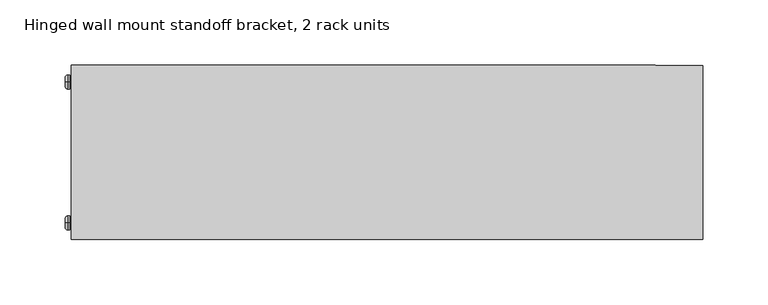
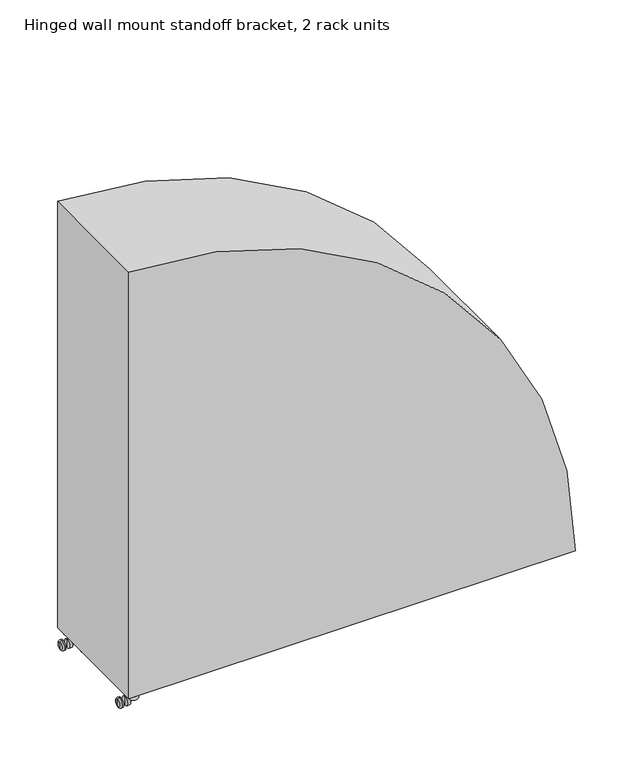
"""IFC4 building model written with IfcOpenShell, lengths in millimetres: electric appliance geometry, Data_Device-Network-Leviton-Hinged-Wall_Mount-Bracket : Hinged wall mount standoff bracket, 2 rack units."""

from ifc_helpers import new_model, si_unit, point, frame, frame_2d, origin, place, context, project, spatial, polyline, circle_curve, ellipse_curve, trimmed, segment, composite_curve, outline, extrude, source, transform, mapped, element, save
from ifc_brep_helpers import plane_surface, cylinder_surface, revolved_surface, advanced_brep


def hinged_wall_mount_standoff_bracket_2_rack_units_79093c4a(model_context):
    return source(origin(), model_context, "Body", "SolidModel", [
        extrude(outline(composite_curve([segment(trimmed(circle_curve(frame_2d((-255.7526, 65.7792825)), 4.826), [point((-250.9266, 65.7792825))], [point((-260.5786, 65.7792825))], False, "CARTESIAN"), True, "CONTINUOUS"), segment(trimmed(circle_curve(frame_2d((-255.7526, 65.7792825)), 4.826), [point((-260.5786, 65.7792825))], [point((-250.9266, 65.7792825))], False, "CARTESIAN"), True, "CONTINUOUS")], self_intersect=False), holes=[composite_curve([segment(trimmed(circle_curve(frame_2d((-255.7526, 65.7792825)), 2.7432), [point((-253.0094, 65.7792825))], [point((-258.4958, 65.7792825))], True, "CARTESIAN"), True, "CONTINUOUS"), segment(trimmed(circle_curve(frame_2d((-255.7526, 65.7792825)), 2.7432), [point((-258.4958, 65.7792825))], [point((-253.0094, 65.7792825))], True, "CARTESIAN"), True, "CONTINUOUS")], self_intersect=False)]), frame((0.0, 0.0, 147.1549), z_axis=(0.0, 0.0, 1.0), x_axis=(1.0, 0.0, 0.0)), (0.0, 0.0, 1.0), 3.9878),
        extrude(outline(composite_curve([segment(trimmed(circle_curve(frame_2d((-255.7526, 49.9042825)), 4.826), [point((-250.9266, 49.9042825))], [point((-260.5786, 49.9042825))], False, "CARTESIAN"), True, "CONTINUOUS"), segment(trimmed(circle_curve(frame_2d((-255.7526, 49.9042825)), 4.826), [point((-260.5786, 49.9042825))], [point((-250.9266, 49.9042825))], False, "CARTESIAN"), True, "CONTINUOUS")], self_intersect=False), holes=[composite_curve([segment(trimmed(circle_curve(frame_2d((-255.7526, 49.9042825)), 2.7432), [point((-253.0094, 49.9042825))], [point((-258.4958, 49.9042825))], True, "CARTESIAN"), True, "CONTINUOUS"), segment(trimmed(circle_curve(frame_2d((-255.7526, 49.9042825)), 2.7432), [point((-258.4958, 49.9042825))], [point((-253.0094, 49.9042825))], True, "CARTESIAN"), True, "CONTINUOUS")], self_intersect=False)]), frame((0.0, 0.0, 147.1549), z_axis=(0.0, 0.0, 1.0), x_axis=(1.0, 0.0, 0.0)), (0.0, 0.0, 1.0), 3.9878),
        extrude(outline(composite_curve([segment(trimmed(circle_curve(frame_2d((-255.7526, 34.0292825)), 4.826), [point((-250.9266, 34.0292825))], [point((-260.5786, 34.0292825))], False, "CARTESIAN"), True, "CONTINUOUS"), segment(trimmed(circle_curve(frame_2d((-255.7526, 34.0292825)), 4.826), [point((-260.5786, 34.0292825))], [point((-250.9266, 34.0292825))], False, "CARTESIAN"), True, "CONTINUOUS")], self_intersect=False), holes=[composite_curve([segment(trimmed(circle_curve(frame_2d((-255.7526, 34.0292825)), 2.7432), [point((-253.0094, 34.0292825))], [point((-258.4958, 34.0292825))], True, "CARTESIAN"), True, "CONTINUOUS"), segment(trimmed(circle_curve(frame_2d((-255.7526, 34.0292825)), 2.7432), [point((-258.4958, 34.0292825))], [point((-253.0094, 34.0292825))], True, "CARTESIAN"), True, "CONTINUOUS")], self_intersect=False)]), frame((0.0, 0.0, 147.1549), z_axis=(0.0, 0.0, 1.0), x_axis=(1.0, 0.0, 0.0)), (0.0, 0.0, 1.0), 3.9878),
        extrude(outline(composite_curve([segment(trimmed(circle_curve(frame_2d((-255.7526, 21.3292825)), 4.826), [point((-250.9266, 21.3292825))], [point((-260.5786, 21.3292825))], False, "CARTESIAN"), True, "CONTINUOUS"), segment(trimmed(circle_curve(frame_2d((-255.7526, 21.3292825)), 4.826), [point((-260.5786, 21.3292825))], [point((-250.9266, 21.3292825))], False, "CARTESIAN"), True, "CONTINUOUS")], self_intersect=False), holes=[composite_curve([segment(trimmed(circle_curve(frame_2d((-255.7526, 21.3292825)), 2.7432), [point((-253.0094, 21.3292825))], [point((-258.4958, 21.3292825))], True, "CARTESIAN"), True, "CONTINUOUS"), segment(trimmed(circle_curve(frame_2d((-255.7526, 21.3292825)), 2.7432), [point((-258.4958, 21.3292825))], [point((-253.0094, 21.3292825))], True, "CARTESIAN"), True, "CONTINUOUS")], self_intersect=False)]), frame((0.0, 0.0, 147.1549), z_axis=(0.0, 0.0, 1.0), x_axis=(1.0, 0.0, 0.0)), (0.0, 0.0, 1.0), 3.9878),
        extrude(outline(composite_curve([segment(trimmed(circle_curve(frame_2d((-255.7526, 5.4542825)), 4.826), [point((-250.9266, 5.4542825))], [point((-260.5786, 5.4542825))], False, "CARTESIAN"), True, "CONTINUOUS"), segment(trimmed(circle_curve(frame_2d((-255.7526, 5.4542825)), 4.826), [point((-260.5786, 5.4542825))], [point((-250.9266, 5.4542825))], False, "CARTESIAN"), True, "CONTINUOUS")], self_intersect=False), holes=[composite_curve([segment(trimmed(circle_curve(frame_2d((-255.7526, 5.4542825)), 2.7432), [point((-253.0094, 5.4542825))], [point((-258.4958, 5.4542825))], True, "CARTESIAN"), True, "CONTINUOUS"), segment(trimmed(circle_curve(frame_2d((-255.7526, 5.4542825)), 2.7432), [point((-258.4958, 5.4542825))], [point((-253.0094, 5.4542825))], True, "CARTESIAN"), True, "CONTINUOUS")], self_intersect=False)]), frame((0.0, 0.0, 147.1549), z_axis=(0.0, 0.0, 1.0), x_axis=(1.0, 0.0, 0.0)), (0.0, 0.0, 1.0), 3.9878),
        extrude(outline(composite_curve([segment(trimmed(circle_curve(frame_2d((-255.7526, -10.4207175)), 4.826), [point((-250.9266, -10.4207175))], [point((-260.5786, -10.4207175))], False, "CARTESIAN"), True, "CONTINUOUS"), segment(trimmed(circle_curve(frame_2d((-255.7526, -10.4207175)), 4.826), [point((-260.5786, -10.4207175))], [point((-250.9266, -10.4207175))], False, "CARTESIAN"), True, "CONTINUOUS")], self_intersect=False), holes=[composite_curve([segment(trimmed(circle_curve(frame_2d((-255.7526, -10.4207175)), 2.7432), [point((-253.0094, -10.4207175))], [point((-258.4958, -10.4207175))], True, "CARTESIAN"), True, "CONTINUOUS"), segment(trimmed(circle_curve(frame_2d((-255.7526, -10.4207175)), 2.7432), [point((-258.4958, -10.4207175))], [point((-253.0094, -10.4207175))], True, "CARTESIAN"), True, "CONTINUOUS")], self_intersect=False)]), frame((0.0, 0.0, 147.1549), z_axis=(0.0, 0.0, 1.0), x_axis=(1.0, 0.0, 0.0)), (0.0, 0.0, 1.0), 3.9878),
        extrude(outline(composite_curve([segment(trimmed(circle_curve(frame_2d((-255.7526, -23.1207175)), 4.826), [point((-250.9266, -23.1207175))], [point((-260.5786, -23.1207175))], False, "CARTESIAN"), True, "CONTINUOUS"), segment(trimmed(circle_curve(frame_2d((-255.7526, -23.1207175)), 4.826), [point((-260.5786, -23.1207175))], [point((-250.9266, -23.1207175))], False, "CARTESIAN"), True, "CONTINUOUS")], self_intersect=False), holes=[composite_curve([segment(trimmed(circle_curve(frame_2d((-255.7526, -23.1207175)), 2.7432), [point((-253.0094, -23.1207175))], [point((-258.4958, -23.1207175))], True, "CARTESIAN"), True, "CONTINUOUS"), segment(trimmed(circle_curve(frame_2d((-255.7526, -23.1207175)), 2.7432), [point((-258.4958, -23.1207175))], [point((-253.0094, -23.1207175))], True, "CARTESIAN"), True, "CONTINUOUS")], self_intersect=False)]), frame((0.0, 0.0, 147.1549), z_axis=(0.0, 0.0, 1.0), x_axis=(1.0, 0.0, 0.0)), (0.0, 0.0, 1.0), 3.9878),
        extrude(outline(composite_curve([segment(trimmed(circle_curve(frame_2d((-255.7526, -38.9957175)), 4.826), [point((-250.9266, -38.9957175))], [point((-260.5786, -38.9957175))], False, "CARTESIAN"), True, "CONTINUOUS"), segment(trimmed(circle_curve(frame_2d((-255.7526, -38.9957175)), 4.826), [point((-260.5786, -38.9957175))], [point((-250.9266, -38.9957175))], False, "CARTESIAN"), True, "CONTINUOUS")], self_intersect=False), holes=[composite_curve([segment(trimmed(circle_curve(frame_2d((-255.7526, -38.9957175)), 2.7432), [point((-253.0094, -38.9957175))], [point((-258.4958, -38.9957175))], True, "CARTESIAN"), True, "CONTINUOUS"), segment(trimmed(circle_curve(frame_2d((-255.7526, -38.9957175)), 2.7432), [point((-258.4958, -38.9957175))], [point((-253.0094, -38.9957175))], True, "CARTESIAN"), True, "CONTINUOUS")], self_intersect=False)]), frame((0.0, 0.0, 147.1549), z_axis=(0.0, 0.0, 1.0), x_axis=(1.0, 0.0, 0.0)), (0.0, 0.0, 1.0), 3.9878),
        extrude(outline(composite_curve([segment(trimmed(circle_curve(frame_2d((-255.7526, -54.8707175)), 4.826), [point((-250.9266, -54.8707175))], [point((-260.5786, -54.8707175))], False, "CARTESIAN"), True, "CONTINUOUS"), segment(trimmed(circle_curve(frame_2d((-255.7526, -54.8707175)), 4.826), [point((-260.5786, -54.8707175))], [point((-250.9266, -54.8707175))], False, "CARTESIAN"), True, "CONTINUOUS")], self_intersect=False), holes=[composite_curve([segment(trimmed(circle_curve(frame_2d((-255.7526, -54.8707175)), 2.7432), [point((-253.0094, -54.8707175))], [point((-258.4958, -54.8707175))], True, "CARTESIAN"), True, "CONTINUOUS"), segment(trimmed(circle_curve(frame_2d((-255.7526, -54.8707175)), 2.7432), [point((-258.4958, -54.8707175))], [point((-253.0094, -54.8707175))], True, "CARTESIAN"), True, "CONTINUOUS")], self_intersect=False)]), frame((0.0, 0.0, 147.1549), z_axis=(0.0, 0.0, 1.0), x_axis=(1.0, 0.0, 0.0)), (0.0, 0.0, 1.0), 3.9878),
        advanced_brep(
        [(-261.1501, 59.4292825, 141.3002), (-261.1501, 59.4292825, 136.4742), (-261.1501, 59.4292825, 146.1262), (-257.8481, 59.4292825, 136.4742), (-257.8481, 59.4292825, 146.1262), (-257.8481, 59.4292825, 138.557), (-257.8481, 59.4292825, 144.0434), (-256.0701, 59.4292825, 138.557), (-256.0701, 59.4292825, 144.0434), (-256.0701, 59.4292825, 141.3002)],
        [
            (0, 1),
            (1, 2, circle_curve(frame((-261.1501, 59.4292825, 141.3002), z_axis=(-1.0, 0.0, 0.0), x_axis=(0.0, 0.0, -1.0)), 4.826)),
            (2, 0),
            (2, 1, circle_curve(frame((-261.1501, 59.4292825, 141.3002), z_axis=(-1.0, 0.0, 0.0), x_axis=(0.0, 0.0, -1.0)), 4.826)),
            (1, 3),
            (3, 4, circle_curve(frame((-257.8481, 59.4292825, 141.3002), z_axis=(-1.0, 0.0, 0.0), x_axis=(0.0, 0.0, -1.0)), 4.826)),
            (4, 2),
            (4, 3, circle_curve(frame((-257.8481, 59.4292825, 141.3002), z_axis=(-1.0, 0.0, 0.0), x_axis=(0.0, 0.0, -1.0)), 4.826)),
            (3, 5),
            (5, 6, circle_curve(frame((-257.8481, 59.4292825, 141.3002), z_axis=(-1.0, 0.0, 0.0), x_axis=(0.0, 0.0, -1.0)), 2.7432)),
            (6, 4),
            (6, 5, circle_curve(frame((-257.8481, 59.4292825, 141.3002), z_axis=(-1.0, 0.0, 0.0), x_axis=(0.0, 0.0, -1.0)), 2.7432)),
            (5, 7),
            (7, 8, circle_curve(frame((-256.0701, 59.4292825, 141.3002), z_axis=(-1.0, 0.0, 0.0), x_axis=(0.0, 0.0, -1.0)), 2.7432)),
            (8, 6),
            (8, 7, circle_curve(frame((-256.0701, 59.4292825, 141.3002), z_axis=(-1.0, 0.0, 0.0), x_axis=(0.0, 0.0, -1.0)), 2.7432)),
            (7, 9),
            (9, 8),
        ],
        [
            plane_surface(frame((-261.1501, 59.4292825, 141.3002), z_axis=(-1.0, 0.0, 0.0), x_axis=(0.0, 0.0, -1.0))),
            cylinder_surface(frame((15.1899171, 59.4292825, 141.3002), z_axis=(-1.0, 0.0, 0.0), x_axis=(0.0, 0.0, -1.0)), 4.826),
            plane_surface(frame((-257.8481, 59.4292825, 141.3002), z_axis=(1.0, 0.0, 0.0), x_axis=(0.0, 0.0, -1.0))),
            cylinder_surface(frame((15.1899171, 59.4292825, 141.3002), z_axis=(-1.0, 0.0, 0.0), x_axis=(0.0, 0.0, -1.0)), 2.7432),
            plane_surface(frame((-256.0701, 59.4292825, 141.3002), z_axis=(1.0, 0.0, 0.0), x_axis=(0.0, 0.0, -1.0))),
        ],
        [
            (0, [[1, 2, 3]]),
            (0, [[-3, 4, -1]]),
            (1, [[-2, 5, 6, 7]]),
            (1, [[-4, -7, 8, -5]]),
            (2, [[-6, 9, 10, 11]]),
            (2, [[-8, -11, 12, -9]]),
            (3, [[-10, 13, 14, 15]]),
            (3, [[-12, -15, 16, -13]]),
            (4, [[-14, 17, 18]]),
            (4, [[-16, -18, -17]]),
        ],
    ),
        advanced_brep(
        [(-265.5951, 59.4292825, 146.6342), (-265.5951, 59.4292825, 135.9662), (-265.5951, 59.4292825, 141.3002), (-268.7701, 59.4292825, 141.3002), (-268.7701, 59.4292825, 137.668), (-268.7701, 59.4292825, 144.9324), (-267.0683, 59.4292825, 135.9662), (-267.0683, 59.4292825, 146.6342)],
        [
            (0, 1, circle_curve(frame((-265.5951, 59.4292825, 141.3002), z_axis=(1.0, 0.0, 0.0), x_axis=(0.0, 0.0, -1.0)), 5.334)),
            (1, 2),
            (2, 0),
            (1, 0, circle_curve(frame((-265.5951, 59.4292825, 141.3002), z_axis=(1.0, 0.0, 0.0), x_axis=(0.0, 0.0, -1.0)), 5.334)),
            (3, 4),
            (4, 5, circle_curve(frame((-268.7701, 59.4292825, 141.3002), z_axis=(-1.0, 0.0, 0.0), x_axis=(0.0, 0.0, -1.0)), 3.6322)),
            (5, 3),
            (5, 4, circle_curve(frame((-268.7701, 59.4292825, 141.3002), z_axis=(-1.0, 0.0, 0.0), x_axis=(0.0, 0.0, -1.0)), 3.6322)),
            (4, 6, circle_curve(frame((-267.0683, 59.4292825, 137.668), z_axis=(0.0, -1.0, 0.0), x_axis=(0.0, 0.0, -1.0)), 1.7018)),
            (6, 7, circle_curve(frame((-267.0683, 59.4292825, 141.3002), z_axis=(-1.0, 0.0, 0.0), x_axis=(0.0, 0.0, -1.0)), 5.334)),
            (7, 5, circle_curve(frame((-267.0683, 59.4292825, 144.9324), z_axis=(0.0, -1.0, 0.0), x_axis=(0.0, 0.0, 1.0)), 1.7018)),
            (7, 6, circle_curve(frame((-267.0683, 59.4292825, 141.3002), z_axis=(-1.0, 0.0, 0.0), x_axis=(0.0, 0.0, -1.0)), 5.334)),
            (6, 1),
            (0, 7),
        ],
        [
            plane_surface(frame((-265.5951, 59.4292825, 141.3002), z_axis=(1.0, 0.0, 0.0), x_axis=(0.0, 0.0, -1.0))),
            plane_surface(frame((-268.7701, 59.4292825, 141.3002), z_axis=(-1.0, 0.0, 0.0), x_axis=(0.0, 0.0, -1.0))),
            revolved_surface(trimmed(ellipse_curve(frame((-267.0683, 59.4292825, 137.668), z_axis=(0.0, 1.0, 0.0), x_axis=(0.0, 0.0, -1.0)), 1.7018, 1.7018), [point((-267.0683, 59.4292825, 135.9662))], [point((-268.7701, 59.4292825, 137.668))], True, "CARTESIAN"), (15.1899171, 59.4292825, 141.3002), (-1.0, 0.0, 0.0)),
            cylinder_surface(frame((15.1899171, 59.4292825, 141.3002), z_axis=(-1.0, 0.0, 0.0), x_axis=(0.0, 0.0, -1.0)), 5.334),
        ],
        [
            (0, [[1, 2, 3]]),
            (0, [[4, -3, -2]]),
            (1, [[5, 6, 7]]),
            (1, [[-7, 8, -5]]),
            (2, [[-6, 9, 10, 11]]),
            (2, [[-8, -11, 12, -9]]),
            (3, [[-10, 13, -1, 14]]),
            (3, [[-12, -14, -4, -13]]),
        ],
    ),
        advanced_brep(
        [(-261.1501, -48.5207175, 141.3002), (-261.1501, -48.5207175, 136.4742), (-261.1501, -48.5207175, 146.1262), (-257.8481, -48.5207175, 136.4742), (-257.8481, -48.5207175, 146.1262), (-257.8481, -48.5207175, 138.557), (-257.8481, -48.5207175, 144.0434), (-256.0701, -48.5207175, 138.557), (-256.0701, -48.5207175, 144.0434), (-256.0701, -48.5207175, 141.3002)],
        [
            (0, 1),
            (1, 2, circle_curve(frame((-261.1501, -48.5207175, 141.3002), z_axis=(-1.0, 0.0, 0.0), x_axis=(0.0, 0.0, -1.0)), 4.826)),
            (2, 0),
            (2, 1, circle_curve(frame((-261.1501, -48.5207175, 141.3002), z_axis=(-1.0, 0.0, 0.0), x_axis=(0.0, 0.0, -1.0)), 4.826)),
            (1, 3),
            (3, 4, circle_curve(frame((-257.8481, -48.5207175, 141.3002), z_axis=(-1.0, 0.0, 0.0), x_axis=(0.0, 0.0, -1.0)), 4.826)),
            (4, 2),
            (4, 3, circle_curve(frame((-257.8481, -48.5207175, 141.3002), z_axis=(-1.0, 0.0, 0.0), x_axis=(0.0, 0.0, -1.0)), 4.826)),
            (3, 5),
            (5, 6, circle_curve(frame((-257.8481, -48.5207175, 141.3002), z_axis=(-1.0, 0.0, 0.0), x_axis=(0.0, 0.0, -1.0)), 2.7432)),
            (6, 4),
            (6, 5, circle_curve(frame((-257.8481, -48.5207175, 141.3002), z_axis=(-1.0, 0.0, 0.0), x_axis=(0.0, 0.0, -1.0)), 2.7432)),
            (5, 7),
            (7, 8, circle_curve(frame((-256.0701, -48.5207175, 141.3002), z_axis=(-1.0, 0.0, 0.0), x_axis=(0.0, 0.0, -1.0)), 2.7432)),
            (8, 6),
            (8, 7, circle_curve(frame((-256.0701, -48.5207175, 141.3002), z_axis=(-1.0, 0.0, 0.0), x_axis=(0.0, 0.0, -1.0)), 2.7432)),
            (7, 9),
            (9, 8),
        ],
        [
            plane_surface(frame((-261.1501, -48.5207175, 141.3002), z_axis=(-1.0, 0.0, 0.0), x_axis=(0.0, 0.0, -1.0))),
            cylinder_surface(frame((15.1899171, -48.5207175, 141.3002), z_axis=(-1.0, 0.0, 0.0), x_axis=(0.0, 0.0, -1.0)), 4.826),
            plane_surface(frame((-257.8481, -48.5207175, 141.3002), z_axis=(1.0, 0.0, 0.0), x_axis=(0.0, 0.0, -1.0))),
            cylinder_surface(frame((15.1899171, -48.5207175, 141.3002), z_axis=(-1.0, 0.0, 0.0), x_axis=(0.0, 0.0, -1.0)), 2.7432),
            plane_surface(frame((-256.0701, -48.5207175, 141.3002), z_axis=(1.0, 0.0, 0.0), x_axis=(0.0, 0.0, -1.0))),
        ],
        [
            (0, [[1, 2, 3]]),
            (0, [[-3, 4, -1]]),
            (1, [[-2, 5, 6, 7]]),
            (1, [[-4, -7, 8, -5]]),
            (2, [[-6, 9, 10, 11]]),
            (2, [[-8, -11, 12, -9]]),
            (3, [[-10, 13, 14, 15]]),
            (3, [[-12, -15, 16, -13]]),
            (4, [[-14, 17, 18]]),
            (4, [[-16, -18, -17]]),
        ],
    ),
        advanced_brep(
        [(-265.5951, -48.5207175, 146.6342), (-265.5951, -48.5207175, 135.9662), (-265.5951, -48.5207175, 141.3002), (-268.7701, -48.5207175, 141.3002), (-268.7701, -48.5207175, 137.668), (-268.7701, -48.5207175, 144.9324), (-267.0683, -48.5207175, 135.9662), (-267.0683, -48.5207175, 146.6342)],
        [
            (0, 1, circle_curve(frame((-265.5951, -48.5207175, 141.3002), z_axis=(1.0, 0.0, 0.0), x_axis=(0.0, 0.0, -1.0)), 5.334)),
            (1, 2),
            (2, 0),
            (1, 0, circle_curve(frame((-265.5951, -48.5207175, 141.3002), z_axis=(1.0, 0.0, 0.0), x_axis=(0.0, 0.0, -1.0)), 5.334)),
            (3, 4),
            (4, 5, circle_curve(frame((-268.7701, -48.5207175, 141.3002), z_axis=(-1.0, 0.0, 0.0), x_axis=(0.0, 0.0, -1.0)), 3.6322)),
            (5, 3),
            (5, 4, circle_curve(frame((-268.7701, -48.5207175, 141.3002), z_axis=(-1.0, 0.0, 0.0), x_axis=(0.0, 0.0, -1.0)), 3.6322)),
            (4, 6, circle_curve(frame((-267.0683, -48.5207175, 137.668), z_axis=(0.0, -1.0, 0.0), x_axis=(0.0, 0.0, -1.0)), 1.7018)),
            (6, 7, circle_curve(frame((-267.0683, -48.5207175, 141.3002), z_axis=(-1.0, 0.0, 0.0), x_axis=(0.0, 0.0, -1.0)), 5.334)),
            (7, 5, circle_curve(frame((-267.0683, -48.5207175, 144.9324), z_axis=(0.0, -1.0, 0.0), x_axis=(0.0, 0.0, 1.0)), 1.7018)),
            (7, 6, circle_curve(frame((-267.0683, -48.5207175, 141.3002), z_axis=(-1.0, 0.0, 0.0), x_axis=(0.0, 0.0, -1.0)), 5.334)),
            (6, 1),
            (0, 7),
        ],
        [
            plane_surface(frame((-265.5951, -48.5207175, 141.3002), z_axis=(1.0, 0.0, 0.0), x_axis=(0.0, 0.0, -1.0))),
            plane_surface(frame((-268.7701, -48.5207175, 141.3002), z_axis=(-1.0, 0.0, 0.0), x_axis=(0.0, 0.0, -1.0))),
            revolved_surface(trimmed(ellipse_curve(frame((-267.0683, -48.5207175, 137.668), z_axis=(0.0, 1.0, 0.0), x_axis=(0.0, 0.0, -1.0)), 1.7018, 1.7018), [point((-267.0683, -48.5207175, 135.9662))], [point((-268.7701, -48.5207175, 137.668))], True, "CARTESIAN"), (15.1899171, -48.5207175, 141.3002), (-1.0, 0.0, 0.0)),
            cylinder_surface(frame((15.1899171, -48.5207175, 141.3002), z_axis=(-1.0, 0.0, 0.0), x_axis=(0.0, 0.0, -1.0)), 5.334),
        ],
        [
            (0, [[1, 2, 3]]),
            (0, [[4, -3, -2]]),
            (1, [[5, 6, 7]]),
            (1, [[-7, 8, -5]]),
            (2, [[-6, 9, 10, 11]]),
            (2, [[-8, -11, 12, -9]]),
            (3, [[-10, 13, -1, 14]]),
            (3, [[-12, -14, -4, -13]]),
        ],
    ),
        extrude(outline(composite_curve([segment(trimmed(circle_curve(frame_2d((154.0002, -267.1826)), 485.4575), [point((152.4, 218.2722626))], [point((639.44929, -264.3251))], False, "CARTESIAN"), True, "CONTINUOUS"), segment(polyline([(639.44929, -264.3251), (152.4, -264.3251), (152.4, 218.2722626)]), True, "CONTINUOUS")], self_intersect=False)), frame((0.0, -61.2207175, 0.0), z_axis=(0.0, 1.0, 0.0), x_axis=(0.0, 0.0, 1.0)), (0.0, 0.0, 1.0), 133.35),
    ])


if __name__ == "__main__":
    model = new_model("IFC4")
    model_context = context("Model", 3, world=origin())
    ifc_project = project(units=[si_unit("LENGTHUNIT", "METRE", prefix="MILLI")], contexts=[model_context])
    site = spatial("IfcSite", under=ifc_project)
    building = spatial("IfcBuilding", under=site)
    placement = place(None, origin())
    hinged_wall_mount_standoff_bracket_2_rack_units_shape = hinged_wall_mount_standoff_bracket_2_rack_units_79093c4a(model_context)
    element("IfcElectricAppliance", 1, ObjectType="Data_Device-Network-Leviton-Hinged-Wall_Mount-Bracket : Hinged wall mount standoff bracket, 2 rack units", at=placement, inside=building, context=model_context, shape_type="MappedRepresentation", body=[
        mapped(hinged_wall_mount_standoff_bracket_2_rack_units_shape, transform((0.0, 0.0, 0.0), x_axis=(1.0, 0.0, 0.0), y_axis=(0.0, 1.0, 0.0), z_axis=(0.0, 0.0, 1.0))),
    ])
    save(model, "model.ifc")
